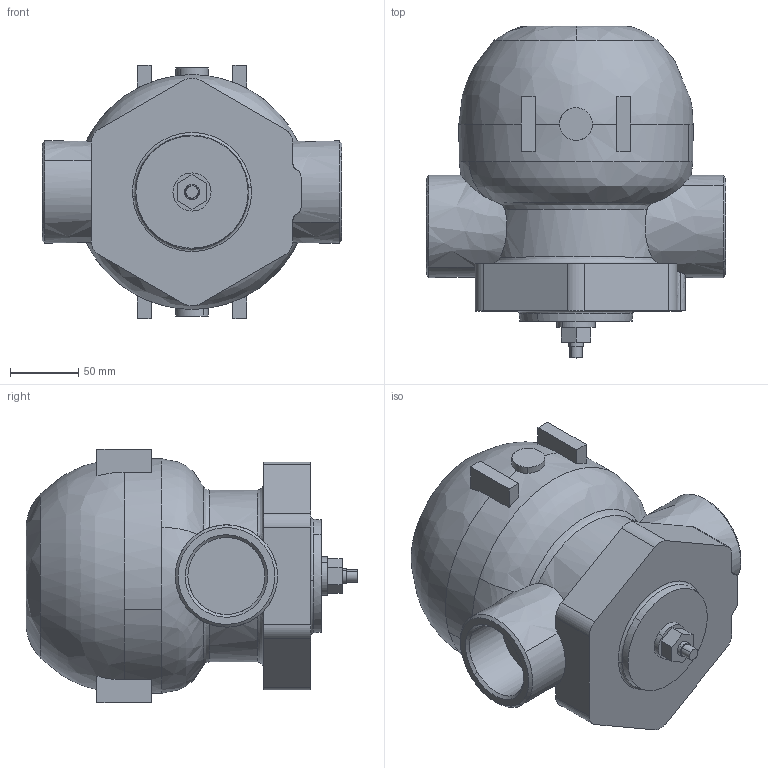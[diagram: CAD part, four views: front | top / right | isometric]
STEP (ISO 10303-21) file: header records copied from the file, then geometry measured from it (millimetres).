
FILE_DESCRIPTION((''),'2;1');
FILE_NAME('','2019-07-12T17:37:28',(''),(''),'','CADfix','');
FILE_SCHEMA(('AUTOMOTIVE_DESIGN { 1 0 10303 214 1 1 1 1 }'));
Length unit declared in the file: millimetre
Bounding box: 220 x 243.5 x 186 mm (x, y, z)
Volume: 4054878.4 mm3; surface area: 179555.5 mm2
Topology: 1 solids, 1 shells, 102 faces, 365 edges, 273 vertices
Faces by surface type: bspline 102
Entity records: 5868 total; most frequent: CARTESIAN_POINT 3786, ORIENTED_EDGE 730, EDGE_CURVE 365, VERTEX_POINT 273, B_SPLINE_CURVE_WITH_KNOTS 199, QUASI_UNIFORM_CURVE 126, EDGE_LOOP 110, FACE_OUTER_BOUND 102
